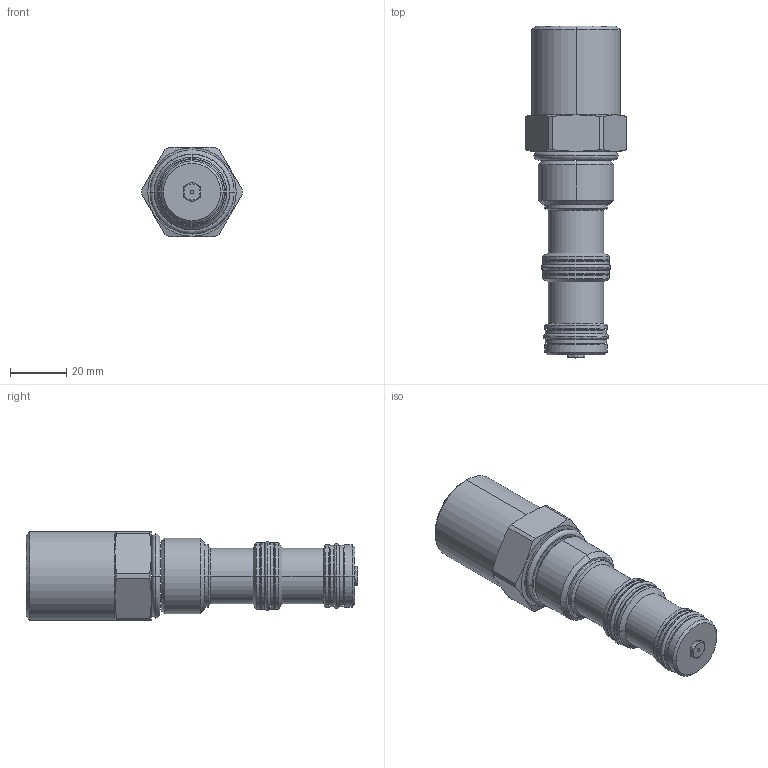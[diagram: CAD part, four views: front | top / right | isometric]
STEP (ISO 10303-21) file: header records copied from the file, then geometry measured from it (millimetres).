
FILE_DESCRIPTION((''),'2;1');
FILE_NAME('5428430_SW0001','2009-01-29T',('JCS'),(''),'PRO/ENGINEER BY PARAMETRIC TECHNOLOGY CORPORATION, 2008010','PRO/ENGINEER BY PARAMETRIC TECHNOLOGY CORPORATION, 2008010','');
FILE_SCHEMA(('CONFIG_CONTROL_DESIGN'));
Length unit declared in the file: inch
Products named in the file (1): 5428430_SW0001
Bounding box: 35.81 x 118.03 x 31.75 mm (x, y, z)
Volume: 63408.3 mm3; surface area: 14866.8 mm2
Topology: 5 solids, 6 shells, 154 faces, 330 edges, 196 vertices
Faces by surface type: cylinder 54, plane 32, revolution 24, torus 22, cone 22
Entity records: 4924 total; most frequent: CARTESIAN_POINT 1482, DIRECTION 758, ORIENTED_EDGE 660, EDGE_CURVE 330, AXIS2_PLACEMENT_3D 320, VERTEX_POINT 196, CIRCLE 190, EDGE_LOOP 170
